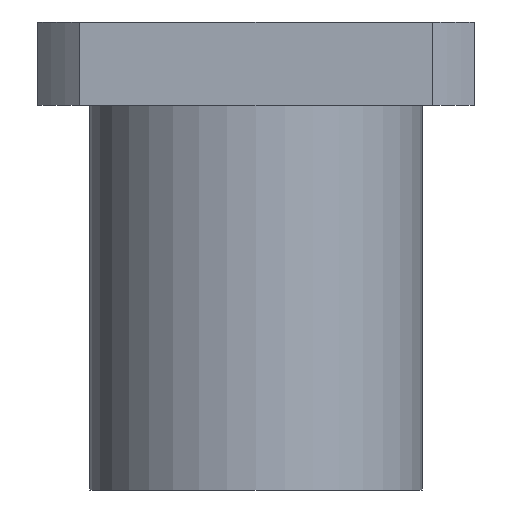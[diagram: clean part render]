
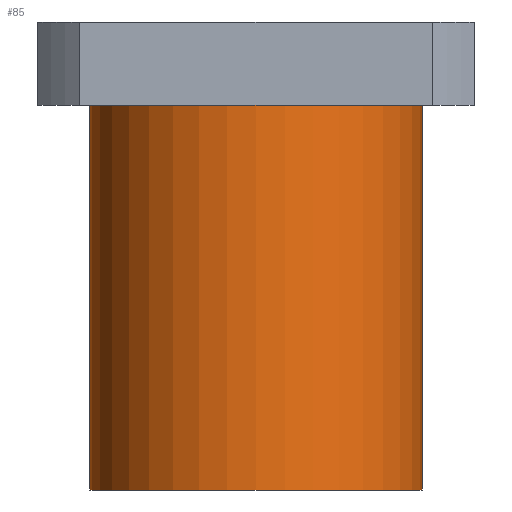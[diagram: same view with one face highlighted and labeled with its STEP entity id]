
A CAD part, front view. The second image highlights one B-rep face of the part: STEP entity #85.
In plain terms, the highlighted cylindrical face has radius 16 mm (diameter 32 mm), a partial arc.
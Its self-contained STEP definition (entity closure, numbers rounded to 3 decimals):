
#44=CARTESIAN_POINT('',(0.0,0.0,0.0));
#45=DIRECTION('',(0.0,0.0,1.0));
#46=DIRECTION('',(-1.0,0.0,0.0));
#47=AXIS2_PLACEMENT_3D('',#44,#45,#46);
#48=CYLINDRICAL_SURFACE('',#47,16.0);
#49=CARTESIAN_POINT('',(-16.0,0.,0.0));
#50=VERTEX_POINT('',#49);
#51=CARTESIAN_POINT('',(-16.0,0.,37.0));
#52=VERTEX_POINT('',#51);
#53=CARTESIAN_POINT('',(-16.0,0.,0.0));
#54=DIRECTION('',(0.0,0.0,1.0));
#55=VECTOR('',#54,37.0);
#56=LINE('',#53,#55);
#57=EDGE_CURVE('',#50,#52,#56,.T.);
#58=ORIENTED_EDGE('',*,*,#57,.F.);
#59=CARTESIAN_POINT('',(16.0,0.,0.0));
#60=VERTEX_POINT('',#59);
#61=CARTESIAN_POINT('',(0.0,0.0,0.0));
#62=DIRECTION('',(0.0,0.0,-1.0));
#63=DIRECTION('',(-1.0,0.0,0.0));
#64=AXIS2_PLACEMENT_3D('',#61,#62,#63);
#65=CIRCLE('',#64,16.0);
#66=EDGE_CURVE('',#60,#50,#65,.T.);
#67=ORIENTED_EDGE('',*,*,#66,.F.);
#68=CARTESIAN_POINT('',(16.0,0.,37.0));
#69=VERTEX_POINT('',#68);
#70=CARTESIAN_POINT('',(16.0,0.,37.0));
#71=DIRECTION('',(0.0,0.0,-1.0));
#72=VECTOR('',#71,37.0);
#73=LINE('',#70,#72);
#74=EDGE_CURVE('',#69,#60,#73,.T.);
#75=ORIENTED_EDGE('',*,*,#74,.F.);
#76=CARTESIAN_POINT('',(0.0,0.0,37.0));
#77=DIRECTION('',(0.0,0.0,-1.0));
#78=DIRECTION('',(-1.0,0.0,0.0));
#79=AXIS2_PLACEMENT_3D('',#76,#77,#78);
#80=CIRCLE('',#79,16.0);
#81=EDGE_CURVE('',#69,#52,#80,.T.);
#82=ORIENTED_EDGE('',*,*,#81,.T.);
#83=EDGE_LOOP('',(#58,#67,#75,#82));
#84=FACE_OUTER_BOUND('',#83,.T.);
#85=ADVANCED_FACE('',(#84),#48,.T.);
